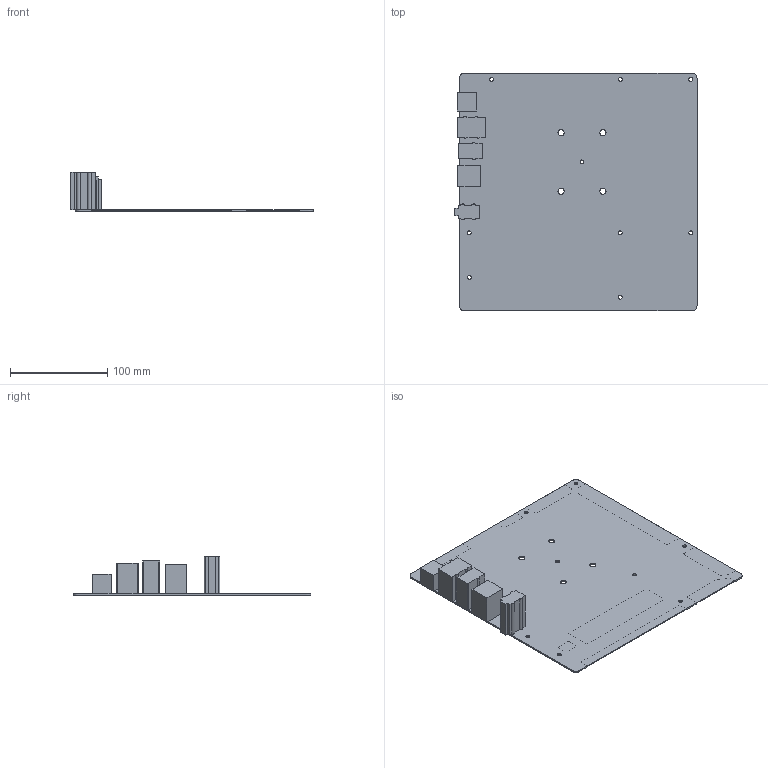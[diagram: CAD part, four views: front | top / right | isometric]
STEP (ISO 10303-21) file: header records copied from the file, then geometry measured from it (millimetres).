
FILE_DESCRIPTION (( 'STEP AP214' ), '1' );
FILE_NAME ('MATX_Case_20240708_3D.STEP', '2024-07-08T13:08:11', ( 'Windows 使用者' ), ( '' ), 'SwSTEP 2.0', 'SolidWorks 2023', '' );
FILE_SCHEMA (( 'AUTOMOTIVE_DESIGN' ));
Length unit declared in the file: millimetre
Products named in the file (8): USB_D18_V3_0_1_2; IOA_HDMI_DP_D39_3P_2; 244x244-PCB-20220915; JA333L_G01_2; 17E09-10-0113; MATX_Case_20240708_3D; USB_A3_17P_2; IOA_RJ45_USB2_LED2_TX32_2
Assembly tree (7 placements, depth 3):
  MATX_Case_20240708_3D
    244x244-PCB-20220915
    17E09-10-0113
      IOA_HDMI_DP_D39_3P_2
      IOA_RJ45_USB2_LED2_TX32_2
      USB_A3_17P_2
      USB_D18_V3_0_1_2
      JA333L_G01_2
Bounding box: 248.33 x 243.84 x 40.53 mm (x, y, z)
Volume: 151473.4 mm3; surface area: 138384.7 mm2
Topology: 6 solids, 6 shells, 499 faces, 1344 edges, 886 vertices
Faces by surface type: plane 254, bspline 134, cylinder 101, torus 10
Entity records: 24492 total; most frequent: CARTESIAN_POINT 9416, ORIENTED_EDGE 2688, DIRECTION 2010, EDGE_CURVE 1344, VERTEX_POINT 886, LINE 874, VECTOR 874, AXIS2_PLACEMENT_3D 568
